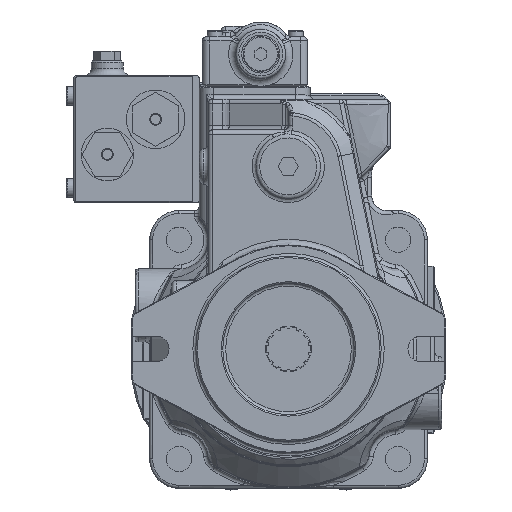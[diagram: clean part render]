
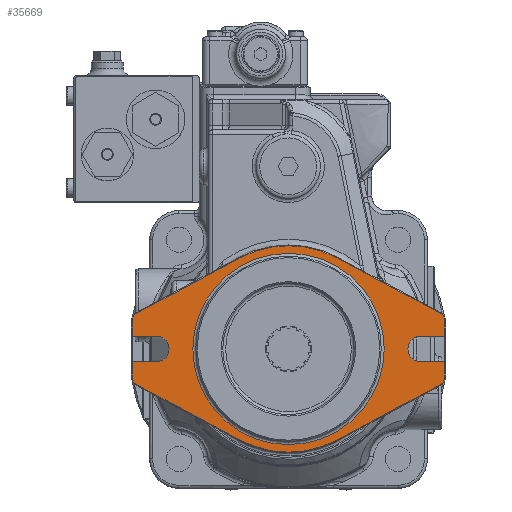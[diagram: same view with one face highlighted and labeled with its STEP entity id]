
A CAD part, top view. The second image highlights one B-rep face of the part: STEP entity #35669.
In plain terms, the highlighted planar face has unit normal (0, 0, 1).
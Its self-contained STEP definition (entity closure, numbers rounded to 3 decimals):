
#35435=CARTESIAN_POINT('',(90.5,8.75,0.0));
#35436=VERTEX_POINT('',#35435);
#35443=CARTESIAN_POINT('',(90.5,-8.75,0.0));
#35444=VERTEX_POINT('',#35443);
#35445=CARTESIAN_POINT('',(90.5,0.0,0.0));
#35446=DIRECTION('',(0.0,0.0,1.0));
#35447=DIRECTION('',(0.0,1.0,0.0));
#35448=AXIS2_PLACEMENT_3D('',#35445,#35446,#35447);
#35449=CIRCLE('',#35448,8.75);
#35450=EDGE_CURVE('',#35436,#35444,#35449,.T.);
#35477=CARTESIAN_POINT('',(-90.5,-8.75,0.0));
#35478=VERTEX_POINT('',#35477);
#35485=CARTESIAN_POINT('',(-90.5,8.75,0.0));
#35486=VERTEX_POINT('',#35485);
#35487=CARTESIAN_POINT('',(-90.5,0.0,0.0));
#35488=DIRECTION('',(0.0,0.0,1.0));
#35489=DIRECTION('',(0.0,-1.0,0.0));
#35490=AXIS2_PLACEMENT_3D('',#35487,#35488,#35489);
#35491=CIRCLE('',#35490,8.75);
#35492=EDGE_CURVE('',#35478,#35486,#35491,.T.);
#35503=CARTESIAN_POINT('',(0.,0.,0.0));
#35504=DIRECTION('',(0.0,0.0,1.0));
#35505=DIRECTION('',(1.0,0.0,0.0));
#35506=AXIS2_PLACEMENT_3D('',#35503,#35504,#35505);
#35507=PLANE('',#35506);
#35508=CARTESIAN_POINT('',(107.0,-8.75,0.0));
#35509=VERTEX_POINT('',#35508);
#35510=CARTESIAN_POINT('',(107.,-19.23,0.0));
#35511=VERTEX_POINT('',#35510);
#35512=CARTESIAN_POINT('',(107.0,-8.75,0.0));
#35513=DIRECTION('',(0.0,-1.0,0.0));
#35514=VECTOR('',#35513,10.48);
#35515=LINE('',#35512,#35514);
#35516=EDGE_CURVE('',#35509,#35511,#35515,.T.);
#35517=ORIENTED_EDGE('',*,*,#35516,.F.);
#35518=CARTESIAN_POINT('',(90.5,-8.75,0.0));
#35519=DIRECTION('',(1.0,0.0,0.0));
#35520=VECTOR('',#35519,16.5);
#35521=LINE('',#35518,#35520);
#35522=EDGE_CURVE('',#35444,#35509,#35521,.T.);
#35523=ORIENTED_EDGE('',*,*,#35522,.F.);
#35524=ORIENTED_EDGE('',*,*,#35450,.F.);
#35525=CARTESIAN_POINT('',(107.0,8.75,0.0));
#35526=VERTEX_POINT('',#35525);
#35527=CARTESIAN_POINT('',(107.0,8.75,0.0));
#35528=DIRECTION('',(-1.0,0.0,0.0));
#35529=VECTOR('',#35528,16.5);
#35530=LINE('',#35527,#35529);
#35531=EDGE_CURVE('',#35526,#35436,#35530,.T.);
#35532=ORIENTED_EDGE('',*,*,#35531,.F.);
#35533=CARTESIAN_POINT('',(107.0,19.23,0.0));
#35534=VERTEX_POINT('',#35533);
#35535=CARTESIAN_POINT('',(107.,19.23,0.0));
#35536=DIRECTION('',(0.0,-1.0,0.0));
#35537=VECTOR('',#35536,10.48);
#35538=LINE('',#35535,#35537);
#35539=EDGE_CURVE('',#35534,#35526,#35538,.T.);
#35540=ORIENTED_EDGE('',*,*,#35539,.F.);
#35541=CARTESIAN_POINT('',(103.872,24.459,0.0));
#35542=VERTEX_POINT('',#35541);
#35543=CARTESIAN_POINT('',(101.065,19.23,0.0));
#35544=DIRECTION('',(0.0,0.0,-1.0));
#35545=DIRECTION('',(0.473,0.881,0.0));
#35546=AXIS2_PLACEMENT_3D('',#35543,#35544,#35545);
#35547=CIRCLE('',#35546,5.935);
#35548=EDGE_CURVE('',#35542,#35534,#35547,.T.);
#35549=ORIENTED_EDGE('',*,*,#35548,.F.);
#35550=CARTESIAN_POINT('',(33.433,62.275,0.0));
#35551=VERTEX_POINT('',#35550);
#35552=CARTESIAN_POINT('',(33.433,62.275,0.0));
#35553=DIRECTION('',(0.881,-0.473,0.0));
#35554=VECTOR('',#35553,79.948);
#35555=LINE('',#35552,#35554);
#35556=EDGE_CURVE('',#35551,#35542,#35555,.T.);
#35557=ORIENTED_EDGE('',*,*,#35556,.F.);
#35558=CARTESIAN_POINT('',(-33.433,62.275,0.0));
#35559=VERTEX_POINT('',#35558);
#35560=CARTESIAN_POINT('',(0.0,0.0,0.0));
#35561=DIRECTION('',(0.0,0.0,-1.0));
#35562=DIRECTION('',(-0.473,0.881,0.0));
#35563=AXIS2_PLACEMENT_3D('',#35560,#35561,#35562);
#35564=CIRCLE('',#35563,70.683);
#35565=EDGE_CURVE('',#35559,#35551,#35564,.T.);
#35566=ORIENTED_EDGE('',*,*,#35565,.F.);
#35567=CARTESIAN_POINT('',(-103.872,24.459,0.0));
#35568=VERTEX_POINT('',#35567);
#35569=CARTESIAN_POINT('',(-103.872,24.459,0.0));
#35570=DIRECTION('',(0.881,0.473,0.0));
#35571=VECTOR('',#35570,79.948);
#35572=LINE('',#35569,#35571);
#35573=EDGE_CURVE('',#35568,#35559,#35572,.T.);
#35574=ORIENTED_EDGE('',*,*,#35573,.F.);
#35575=CARTESIAN_POINT('',(-107.0,19.23,0.0));
#35576=VERTEX_POINT('',#35575);
#35577=CARTESIAN_POINT('',(-101.065,19.23,0.0));
#35578=DIRECTION('',(0.0,0.0,-1.0));
#35579=DIRECTION('',(-1.0,0.0,0.0));
#35580=AXIS2_PLACEMENT_3D('',#35577,#35578,#35579);
#35581=CIRCLE('',#35580,5.935);
#35582=EDGE_CURVE('',#35576,#35568,#35581,.T.);
#35583=ORIENTED_EDGE('',*,*,#35582,.F.);
#35584=CARTESIAN_POINT('',(-107.0,8.75,0.0));
#35585=VERTEX_POINT('',#35584);
#35586=CARTESIAN_POINT('',(-107.0,8.75,0.0));
#35587=DIRECTION('',(0.0,1.0,0.0));
#35588=VECTOR('',#35587,10.48);
#35589=LINE('',#35586,#35588);
#35590=EDGE_CURVE('',#35585,#35576,#35589,.T.);
#35591=ORIENTED_EDGE('',*,*,#35590,.F.);
#35592=CARTESIAN_POINT('',(-90.5,8.75,0.0));
#35593=DIRECTION('',(-1.0,0.0,0.0));
#35594=VECTOR('',#35593,16.5);
#35595=LINE('',#35592,#35594);
#35596=EDGE_CURVE('',#35486,#35585,#35595,.T.);
#35597=ORIENTED_EDGE('',*,*,#35596,.F.);
#35598=ORIENTED_EDGE('',*,*,#35492,.F.);
#35599=CARTESIAN_POINT('',(-107.0,-8.75,0.0));
#35600=VERTEX_POINT('',#35599);
#35601=CARTESIAN_POINT('',(-107.0,-8.75,0.0));
#35602=DIRECTION('',(1.0,0.0,0.0));
#35603=VECTOR('',#35602,16.5);
#35604=LINE('',#35601,#35603);
#35605=EDGE_CURVE('',#35600,#35478,#35604,.T.);
#35606=ORIENTED_EDGE('',*,*,#35605,.F.);
#35607=CARTESIAN_POINT('',(-107.0,-19.23,0.0));
#35608=VERTEX_POINT('',#35607);
#35609=CARTESIAN_POINT('',(-107.0,-19.23,0.0));
#35610=DIRECTION('',(0.0,1.0,0.0));
#35611=VECTOR('',#35610,10.48);
#35612=LINE('',#35609,#35611);
#35613=EDGE_CURVE('',#35608,#35600,#35612,.T.);
#35614=ORIENTED_EDGE('',*,*,#35613,.F.);
#35615=CARTESIAN_POINT('',(-103.872,-24.459,0.0));
#35616=VERTEX_POINT('',#35615);
#35617=CARTESIAN_POINT('',(-101.065,-19.23,0.0));
#35618=DIRECTION('',(0.0,0.0,-1.0));
#35619=DIRECTION('',(-0.473,-0.881,0.0));
#35620=AXIS2_PLACEMENT_3D('',#35617,#35618,#35619);
#35621=CIRCLE('',#35620,5.935);
#35622=EDGE_CURVE('',#35616,#35608,#35621,.T.);
#35623=ORIENTED_EDGE('',*,*,#35622,.F.);
#35624=CARTESIAN_POINT('',(-33.433,-62.275,0.0));
#35625=VERTEX_POINT('',#35624);
#35626=CARTESIAN_POINT('',(-33.433,-62.275,0.0));
#35627=DIRECTION('',(-0.881,0.473,0.0));
#35628=VECTOR('',#35627,79.948);
#35629=LINE('',#35626,#35628);
#35630=EDGE_CURVE('',#35625,#35616,#35629,.T.);
#35631=ORIENTED_EDGE('',*,*,#35630,.F.);
#35632=CARTESIAN_POINT('',(33.433,-62.275,0.0));
#35633=VERTEX_POINT('',#35632);
#35634=CARTESIAN_POINT('',(0.0,0.0,0.0));
#35635=DIRECTION('',(0.0,0.0,-1.0));
#35636=DIRECTION('',(0.473,-0.881,0.0));
#35637=AXIS2_PLACEMENT_3D('',#35634,#35635,#35636);
#35638=CIRCLE('',#35637,70.683);
#35639=EDGE_CURVE('',#35633,#35625,#35638,.T.);
#35640=ORIENTED_EDGE('',*,*,#35639,.F.);
#35641=CARTESIAN_POINT('',(103.872,-24.459,0.0));
#35642=VERTEX_POINT('',#35641);
#35643=CARTESIAN_POINT('',(103.872,-24.459,0.0));
#35644=DIRECTION('',(-0.881,-0.473,0.0));
#35645=VECTOR('',#35644,79.948);
#35646=LINE('',#35643,#35645);
#35647=EDGE_CURVE('',#35642,#35633,#35646,.T.);
#35648=ORIENTED_EDGE('',*,*,#35647,.F.);
#35649=CARTESIAN_POINT('',(101.065,-19.23,0.0));
#35650=DIRECTION('',(0.0,0.0,-1.0));
#35651=DIRECTION('',(1.0,0.0,0.0));
#35652=AXIS2_PLACEMENT_3D('',#35649,#35650,#35651);
#35653=CIRCLE('',#35652,5.935);
#35654=EDGE_CURVE('',#35511,#35642,#35653,.T.);
#35655=ORIENTED_EDGE('',*,*,#35654,.F.);
#35656=EDGE_LOOP('',(#35517,#35523,#35524,#35532,#35540,#35549,#35557,#35566,#35574,#35583,#35591,#35597,#35598,#35606,#35614,#35623,#35631,#35640,#35648,#35655));
#35657=FACE_OUTER_BOUND('',#35656,.T.);
#35658=CARTESIAN_POINT('',(65.487,0.,0.0));
#35659=VERTEX_POINT('',#35658);
#35660=CARTESIAN_POINT('',(0.0,0.0,0.0));
#35661=DIRECTION('',(0.0,0.0,1.0));
#35662=DIRECTION('',(-1.0,0.0,0.0));
#35663=AXIS2_PLACEMENT_3D('',#35660,#35661,#35662);
#35664=CIRCLE('',#35663,65.487);
#35665=EDGE_CURVE('',#35659,#35659,#35664,.T.);
#35666=ORIENTED_EDGE('',*,*,#35665,.F.);
#35667=EDGE_LOOP('',(#35666));
#35668=FACE_BOUND('',#35667,.T.);
#35669=ADVANCED_FACE('',(#35657,#35668),#35507,.T.);
